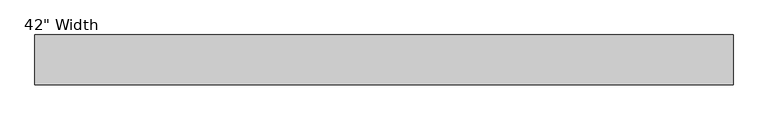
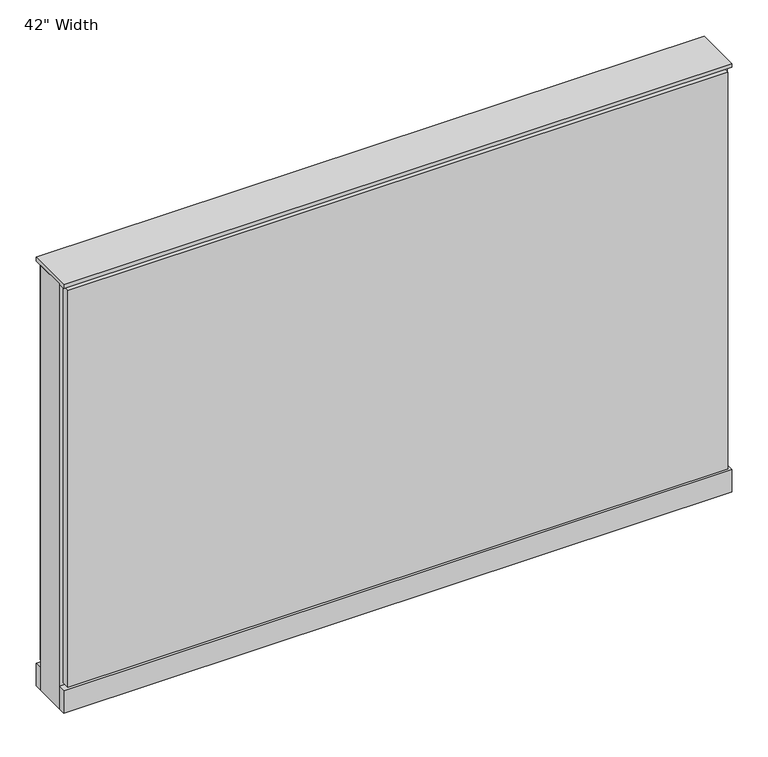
"""IFC4 building model written with IfcOpenShell, lengths in millimetres: furniture geometry."""

from ifc_helpers import new_model, si_unit, point, frame, frame_2d, origin, origin_with_axes, place, context, project, spatial, polyline, circle_curve, trimmed, segment, composite_curve, outline, extrude, source, transform, mapped, element, save


def furniture_7863e3fc(model_context):
    return source(origin(), model_context, "Body", "SweptSolid", [
        extrude(outline(composite_curve([segment(trimmed(circle_curve(frame_2d((459.6402902, 0.0)), 12.7), [point((446.9402902, 0.0))], [point((472.3402902, 0.0))], False, "CARTESIAN"), True, "CONTINUOUS"), segment(trimmed(circle_curve(frame_2d((459.6402902, 0.0)), 12.7), [point((472.3402902, 0.0))], [point((446.9402902, 0.0))], False, "CARTESIAN"), True, "CONTINUOUS")], self_intersect=False)), origin_with_axes(), (0.0, 0.0, 1.0), 12.7),
        extrude(outline(composite_curve([segment(trimmed(circle_curve(frame_2d((-454.7597098, 0.0)), 12.7), [point((-467.4597098, 0.0))], [point((-442.0597098, 0.0))], False, "CARTESIAN"), True, "CONTINUOUS"), segment(trimmed(circle_curve(frame_2d((-454.7597098, 0.0)), 12.7), [point((-442.0597098, 0.0))], [point((-467.4597098, 0.0))], False, "CARTESIAN"), True, "CONTINUOUS")], self_intersect=False)), origin_with_axes(), (0.0, 0.0, 1.0), 12.7),
        extrude(outline(polyline([(529.4902902, 38.1), (529.4902902, 25.4), (-524.6097098, 25.4), (-524.6097098, 38.1), (529.4902902, 38.1)])), frame((0.0, 0.0, 53.975), z_axis=(0.0, 0.0, 1.0), x_axis=(1.0, 0.0, 0.0)), (0.0, 0.0, 1.0), 669.925),
        extrude(outline(polyline([(529.4902902, -38.1), (-524.6097098, -38.1), (-524.6097098, -25.4), (529.4902902, -25.4), (529.4902902, -38.1)])), frame((0.0, 0.0, 53.975), z_axis=(0.0, 0.0, 1.0), x_axis=(1.0, 0.0, 0.0)), (0.0, 0.0, 1.0), 669.925),
        extrude(outline(polyline([(535.8402902, 25.4), (535.8402902, -25.4), (-530.9597098, -25.4), (-530.9597098, 25.4), (535.8402902, 25.4)])), frame((0.0, 0.0, 12.7), z_axis=(0.0, 0.0, 1.0), x_axis=(1.0, 0.0, 0.0)), (0.0, 0.0, 1.0), 717.55),
        extrude(outline(polyline([(-530.9597098, -38.1), (-530.9597098, 38.1), (535.8402902, 38.1), (535.8402902, -38.1), (-530.9597098, -38.1)])), frame((0.0, 0.0, 12.7), z_axis=(0.0, 0.0, 1.0), x_axis=(1.0, 0.0, 0.0)), (0.0, 0.0, 1.0), 38.1),
        extrude(outline(polyline([(-530.9597098, -38.1), (-530.9597098, 38.1), (535.8402902, 38.1), (535.8402902, -38.1), (-530.9597098, -38.1)])), frame((0.0, 0.0, 730.25), z_axis=(0.0, 0.0, 1.0), x_axis=(1.0, 0.0, 0.0)), (0.0, 0.0, 1.0), 6.35),
    ])


if __name__ == "__main__":
    model = new_model("IFC4")
    model_context = context("Model", 3, world=origin())
    ifc_project = project(units=[si_unit("LENGTHUNIT", "METRE", prefix="MILLI")], contexts=[model_context])
    site = spatial("IfcSite", under=ifc_project)
    building = spatial("IfcBuilding", under=site)
    placement = place(None, origin())
    furniture_shape = furniture_7863e3fc(model_context)
    element("IfcFurniture", 1, ObjectType="Haworth_Compose-Panel-Benching : 42\" Width", at=placement, inside=building, context=model_context, shape_type="MappedRepresentation", body=[
        mapped(furniture_shape, transform((0.0, 0.0, 0.0), x_axis=(1.0, 0.0, 0.0), y_axis=(0.0, 1.0, 0.0), z_axis=(0.0, 0.0, 1.0))),
    ])
    save(model, "model.ifc")
